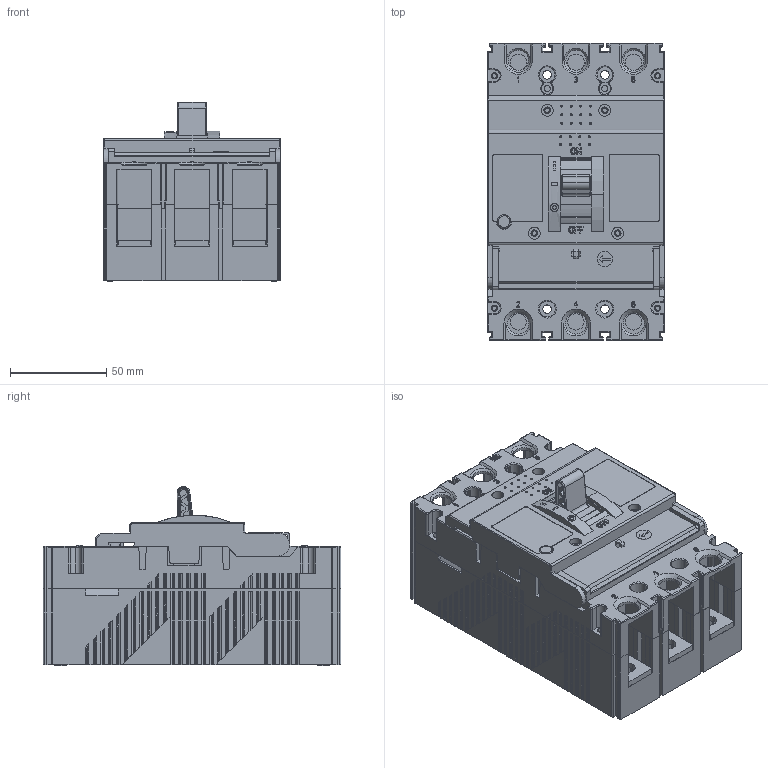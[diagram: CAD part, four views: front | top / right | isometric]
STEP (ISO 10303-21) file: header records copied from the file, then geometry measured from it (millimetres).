
FILE_DESCRIPTION (( 'STEP AP203' ), '1' );
FILE_NAME ('sgm6-160-3p??.STEP', '2024-02-15T10:21:25', ( '' ), ( '' ), 'SwSTEP 2.0', 'SolidWorks 2022', '' );
FILE_SCHEMA (( 'CONFIG_CONTROL_DESIGN' ));
Length unit declared in the file: millimetre
Products named in the file (28): SGM6-160-3PRE_QUILT_27; SGM6-160-3PRE_QUILT_18; SGM6-160-3PRE_QUILT_33; SGM6-160-3PRE_QUILT_2; SGM6-160-3PRE_QUILT_1; SGM6-160-3PRE_QUILT_3; sgm6-160-3p整体; SGM6-160-3PRE_QUILT_32; 160A; SGM6-160-3PRE_QUILT_20; SGM6-160-3PRE_QUILT_26; SGM6-160-3PRE_QUILT_16; SGM6-160-3PRE_QUILT_5; SGM6-160-3PRE_QUILT_29; SGM6-160-3PRE_QUILT_28; SGM6-160-3PRE_QUILT_30; SGM6-160-3PRE_QUILT_4; SGM6-160-3PRE_QUILT_9; SGM6-160-3PRE_QUILT_15; SGM6-160-3PRE_QUILT_7; SGM6-160-3PRE_QUILT_31; SGM6-160-3PRE_QUILT_17; SGM6-160-3PRE_QUILT_19; SGM6-160-3PRE_QUILT_14; SGM6-160-3PRE_QUILT_25; SGM6-160-3PRE_QUILT_24; SGM6-160-3PRE_QUILT_22; SGM6-160-3PRE_QUILT_21
Assembly tree (27 placements, depth 2):
  sgm6-160-3p整体
    SGM6-160-3PRE_QUILT_1
    SGM6-160-3PRE_QUILT_2
    SGM6-160-3PRE_QUILT_3
    SGM6-160-3PRE_QUILT_4
    SGM6-160-3PRE_QUILT_5
    SGM6-160-3PRE_QUILT_7
    SGM6-160-3PRE_QUILT_9
    SGM6-160-3PRE_QUILT_14
    SGM6-160-3PRE_QUILT_15
    SGM6-160-3PRE_QUILT_16
    SGM6-160-3PRE_QUILT_17
    SGM6-160-3PRE_QUILT_18
    SGM6-160-3PRE_QUILT_19
    SGM6-160-3PRE_QUILT_20
    SGM6-160-3PRE_QUILT_21
    SGM6-160-3PRE_QUILT_22
    SGM6-160-3PRE_QUILT_24
    SGM6-160-3PRE_QUILT_25
    SGM6-160-3PRE_QUILT_26
    SGM6-160-3PRE_QUILT_27
    SGM6-160-3PRE_QUILT_28
    SGM6-160-3PRE_QUILT_29
    SGM6-160-3PRE_QUILT_30
    SGM6-160-3PRE_QUILT_31
    SGM6-160-3PRE_QUILT_32
    SGM6-160-3PRE_QUILT_33
    160A
Bounding box: 92 x 155 x 93.24 mm (x, y, z)
Volume: 7517.3 mm3; surface area: 321945.8 mm2
Topology: 9 solids, 35 shells, 4805 faces, 13564 edges, 8877 vertices
Faces by surface type: plane 3450, cylinder 1112, torus 103, cone 59, bspline 52, sphere 29
Entity records: 160469 total; most frequent: CARTESIAN_POINT 31795, ORIENTED_EDGE 27030, DIRECTION 25020, EDGE_CURVE 13515, LINE 10720, VECTOR 10720, VERTEX_POINT 8875, AXIS2_PLACEMENT_3D 7150
